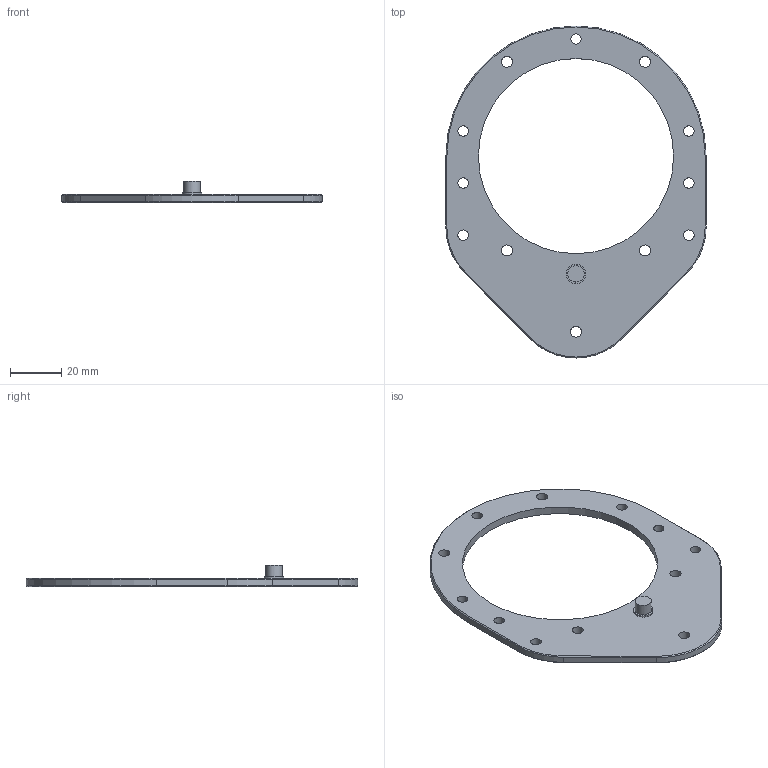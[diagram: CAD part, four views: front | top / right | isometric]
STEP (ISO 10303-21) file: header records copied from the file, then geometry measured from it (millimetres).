
FILE_DESCRIPTION(/* description */ ('STEP AP242 Edition 2','CAx-IF Rec.Pracs.---Representation and Presentation of Product Manufacturing Information (PMI)---4.0---2014-10-13','CAx-IF Rec.Pracs.---3D Tessellated Geometry---0.4---2014-09-14','2;1','CAx-IF Rec.Pracs.---User Defined Attributes---1.5---2016-08-15'),/* implementation_level */ '2;1');
FILE_NAME(/* name */ 'Main - Bottom Plate',/* time_stamp */ '2026-09-13T15:49:57Z',/* author */ (''),/* organization */ (''),/* preprocessor_version */ 'ST-DEVELOPER v20',/* originating_system */ 'ONSHAPE BY PTC INC, 1.220',/* authorisation */ ' ');
FILE_SCHEMA (('AP242_MANAGED_MODEL_BASED_3D_ENGINEERING_MIM_LF { 1 0 10303 442 3 1 4 }'));
Length unit declared in the file: metre
Products named in the file (1): Bottom Plate
Bounding box: 101.6 x 129.61 x 8.26 mm (x, y, z)
Volume: 18039.1 mm3; surface area: 13654 mm2
Topology: 1 solids, 1 shells, 43 faces, 108 edges, 69 vertices
Faces by surface type: cylinder 19, plane 16, cone 8
Full cylindrical faces by diameter (mm): 4.064 x7, 4.318 x5, 6.35 x1, 7.62 x1, 76.2 x1
Entity records: 1232 total; most frequent: DIRECTION 220, CARTESIAN_POINT 192, ORIENTED_EDGE 172, AXIS2_PLACEMENT_3D 90, EDGE_CURVE 86, EDGE_LOOP 86, FACE_BOUND 86, VERTEX_POINT 62
